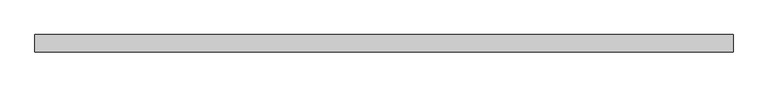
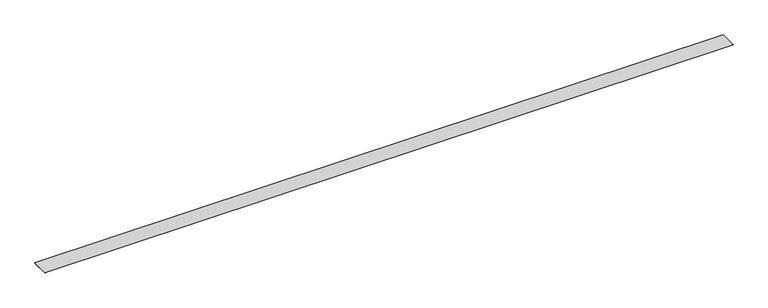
"""IFC4 building model written with IfcOpenShell, lengths in millimetres: proxy geometry, Sika® CarboDur® M914 : Sika® CarboDur® S1012."""

from ifc_helpers import new_model, si_unit, origin, origin_with_axes, place, context, project, spatial, polyline, outline, extrude, source, transform, mapped, element, save


def generic_models_c31f7ad0(model_context):
    return source(origin(), model_context, "Body", "SweptSolid", [
        extrude(outline(polyline([(2015.0, -50.0), (-2015.0, -50.0), (-2015.0, 50.0), (2015.0, 50.0), (2015.0, -50.0)])), origin_with_axes(), (0.0, 0.0, 1.0), 1.2),
    ])


if __name__ == "__main__":
    model = new_model("IFC4")
    model_context = context("Model", 3, world=origin())
    ifc_project = project(units=[si_unit("LENGTHUNIT", "METRE", prefix="MILLI")], contexts=[model_context])
    site = spatial("IfcSite", under=ifc_project)
    building = spatial("IfcBuilding", under=site)
    placement = place(None, origin())
    generic_models_shape = generic_models_c31f7ad0(model_context)
    element("IfcBuildingElementProxy", 1, Name="Sika® CarboDur® M914 : Sika® CarboDur® S1012", ObjectType="Sika® CarboDur® M914 : Sika® CarboDur® S1012", at=placement, inside=building, context=model_context, shape_type="MappedRepresentation", body=[
        mapped(generic_models_shape, transform((0.0, 0.0, 0.0), x_axis=(1.0, 0.0, 0.0), y_axis=(0.0, 1.0, 0.0), z_axis=(0.0, 0.0, 1.0))),
    ])
    save(model, "model.ifc")
